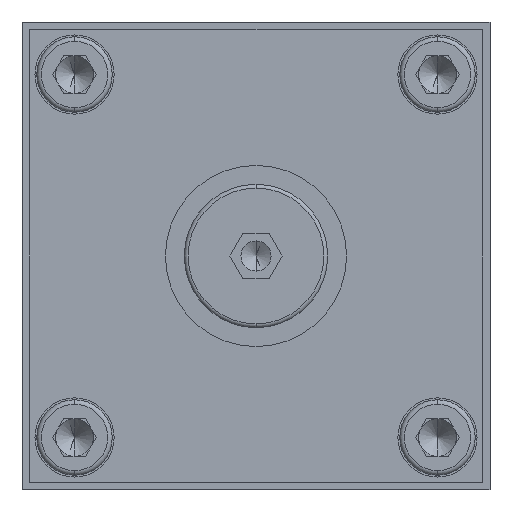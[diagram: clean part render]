
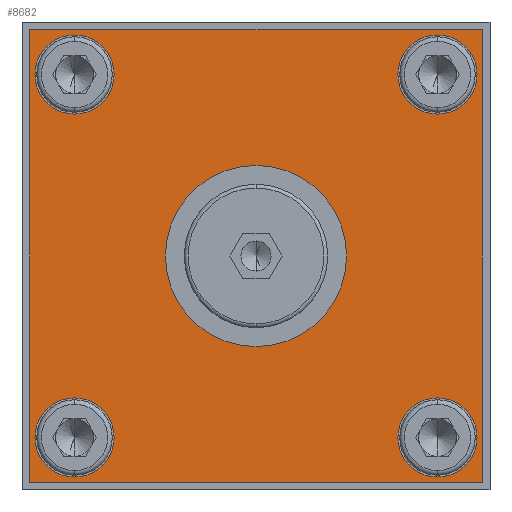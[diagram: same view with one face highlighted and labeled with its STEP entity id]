
A CAD part, left-side view. The second image highlights one B-rep face of the part: STEP entity #8682.
In plain terms, the highlighted planar face has unit normal (-1, 0, 0).
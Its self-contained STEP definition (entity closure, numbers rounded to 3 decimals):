
#21 = EDGE_LOOP ( 'NONE', ( #11604, #5743 ) ) ;
#363 = EDGE_LOOP ( 'NONE', ( #22292, #15758, #13875, #14564 ) ) ;
#414 = CARTESIAN_POINT ( 'NONE',  ( -64.3, -24.04, -18.79 ) ) ;
#457 = AXIS2_PLACEMENT_3D ( 'NONE', #19253, #8886, #20991 ) ;
#461 = DIRECTION ( 'NONE',  ( 0., 0., 1. ) ) ;
#588 = LINE ( 'NONE', #22520, #5245 ) ;
#681 = CARTESIAN_POINT ( 'NONE',  ( -64.3, 30., 30. ) ) ;
#690 = CIRCLE ( 'NONE', #16192, 5.25 ) ;
#1082 = CARTESIAN_POINT ( 'NONE',  ( -64.3, -30., -30. ) ) ;
#1216 = CARTESIAN_POINT ( 'NONE',  ( -64.3, -24.04, -29.29 ) ) ;
#1310 = CARTESIAN_POINT ( 'NONE',  ( -64.3, -24.04, 29.29 ) ) ;
#1331 = AXIS2_PLACEMENT_3D ( 'NONE', #19216, #8853, #20953 ) ;
#1502 = VERTEX_POINT ( 'NONE', #414 ) ;
#1583 = FACE_BOUND ( 'NONE', #21, .T. ) ;
#1585 = VERTEX_POINT ( 'NONE', #18986 ) ;
#1946 = CARTESIAN_POINT ( 'NONE',  ( -64.3, 24.04, 24.04 ) ) ;
#1974 = CIRCLE ( 'NONE', #19823, 12. ) ;
#2020 = VERTEX_POINT ( 'NONE', #1310 ) ;
#2029 = AXIS2_PLACEMENT_3D ( 'NONE', #8393, #20506, #10151 ) ;
#2073 = EDGE_CURVE ( 'NONE', #20411, #14800, #6545, .T. ) ;
#2121 = AXIS2_PLACEMENT_3D ( 'NONE', #1946, #7337, #8644 ) ;
#2244 = CIRCLE ( 'NONE', #2121, 5.25 ) ;
#2783 = CIRCLE ( 'NONE', #20604, 5.25 ) ;
#3221 = DIRECTION ( 'NONE',  ( -1., 0., 0. ) ) ;
#3548 = PLANE ( 'NONE',  #1331 ) ;
#3708 = ORIENTED_EDGE ( 'NONE', *, *, #3899, .F. ) ;
#3784 = CARTESIAN_POINT ( 'NONE',  ( -64.3, -24.04, -24.04 ) ) ;
#3899 = EDGE_CURVE ( 'NONE', #19630, #16609, #15831, .T. ) ;
#3978 = EDGE_CURVE ( 'NONE', #16609, #19630, #2244, .T. ) ;
#4281 = EDGE_CURVE ( 'NONE', #11408, #20855, #20412, .T. ) ;
#4371 = CARTESIAN_POINT ( 'NONE',  ( -64.3, 24.04, -18.79 ) ) ;
#4788 = CARTESIAN_POINT ( 'NONE',  ( -64.3, 0., 0. ) ) ;
#5245 = VECTOR ( 'NONE', #10416, 1000. ) ;
#5382 = CARTESIAN_POINT ( 'NONE',  ( -64.3, 24.04, 29.29 ) ) ;
#5536 = DIRECTION ( 'NONE',  ( 0., 0., 1. ) ) ;
#5572 = AXIS2_PLACEMENT_3D ( 'NONE', #21240, #10893, #461 ) ;
#5743 = ORIENTED_EDGE ( 'NONE', *, *, #11357, .F. ) ;
#5810 = CARTESIAN_POINT ( 'NONE',  ( -64.3, -24.04, -24.04 ) ) ;
#5892 = CARTESIAN_POINT ( 'NONE',  ( -64.3, 0., -12. ) ) ;
#5913 = EDGE_LOOP ( 'NONE', ( #3708, #14756 ) ) ;
#6197 = FACE_BOUND ( 'NONE', #5913, .T. ) ;
#6264 = CARTESIAN_POINT ( 'NONE',  ( -64.3, -30., 30. ) ) ;
#6435 = EDGE_CURVE ( 'NONE', #20441, #20411, #21874, .T. ) ;
#6513 = DIRECTION ( 'NONE',  ( 0., 0., 1. ) ) ;
#6545 = LINE ( 'NONE', #6264, #15787 ) ;
#6747 = FACE_BOUND ( 'NONE', #10967, .T. ) ;
#6769 = VERTEX_POINT ( 'NONE', #15553 ) ;
#6807 = CIRCLE ( 'NONE', #2029, 5.25 ) ;
#6845 = ORIENTED_EDGE ( 'NONE', *, *, #17369, .F. ) ;
#6895 = ORIENTED_EDGE ( 'NONE', *, *, #7816, .F. ) ;
#7203 = AXIS2_PLACEMENT_3D ( 'NONE', #13383, #13698, #15464 ) ;
#7337 = DIRECTION ( 'NONE',  ( -1., 0., 0. ) ) ;
#7386 = VERTEX_POINT ( 'NONE', #5892 ) ;
#7558 = DIRECTION ( 'NONE',  ( 0., 0., 1. ) ) ;
#7816 = EDGE_CURVE ( 'NONE', #7386, #6769, #10675, .T. ) ;
#8393 = CARTESIAN_POINT ( 'NONE',  ( -64.3, -24.04, 24.04 ) ) ;
#8569 = DIRECTION ( 'NONE',  ( -1., 0., 0. ) ) ;
#8644 = DIRECTION ( 'NONE',  ( 0., 0., 1. ) ) ;
#8682 = ADVANCED_FACE ( 'NONE', ( #6747, #20026, #6197, #1583, #19488, #15427 ), #3548, .T. ) ;
#8853 = DIRECTION ( 'NONE',  ( -1., 0., 0. ) ) ;
#8886 = DIRECTION ( 'NONE',  ( -1., 0., 0. ) ) ;
#8944 = AXIS2_PLACEMENT_3D ( 'NONE', #18923, #8569, #20684 ) ;
#9113 = AXIS2_PLACEMENT_3D ( 'NONE', #3784, #15893, #5536 ) ;
#9824 = ORIENTED_EDGE ( 'NONE', *, *, #20730, .F. ) ;
#10151 = DIRECTION ( 'NONE',  ( 0., 0., 1. ) ) ;
#10416 = DIRECTION ( 'NONE',  ( 0., 0., 1. ) ) ;
#10531 = EDGE_CURVE ( 'NONE', #2020, #15795, #2783, .T. ) ;
#10675 = CIRCLE ( 'NONE', #5572, 12. ) ;
#10840 = VECTOR ( 'NONE', #16541, 1000. ) ;
#10893 = DIRECTION ( 'NONE',  ( -1., 0., 0. ) ) ;
#10967 = EDGE_LOOP ( 'NONE', ( #6845, #6895 ) ) ;
#11092 = CARTESIAN_POINT ( 'NONE',  ( -64.3, -30., 30. ) ) ;
#11243 = CARTESIAN_POINT ( 'NONE',  ( -64.3, -30., 30. ) ) ;
#11357 = EDGE_CURVE ( 'NONE', #15795, #2020, #6807, .T. ) ;
#11408 = VERTEX_POINT ( 'NONE', #13665 ) ;
#11604 = ORIENTED_EDGE ( 'NONE', *, *, #10531, .F. ) ;
#11820 = CARTESIAN_POINT ( 'NONE',  ( -64.3, -24.04, 18.79 ) ) ;
#11826 = ORIENTED_EDGE ( 'NONE', *, *, #16591, .F. ) ;
#12650 = VECTOR ( 'NONE', #21550, 1000. ) ;
#12683 = EDGE_CURVE ( 'NONE', #1502, #16835, #17011, .T. ) ;
#13383 = CARTESIAN_POINT ( 'NONE',  ( -64.3, 24.04, 24.04 ) ) ;
#13576 = CARTESIAN_POINT ( 'NONE',  ( -64.3, -24.04, 24.04 ) ) ;
#13665 = CARTESIAN_POINT ( 'NONE',  ( -64.3, 24.04, -29.29 ) ) ;
#13698 = DIRECTION ( 'NONE',  ( -1., 0., 0. ) ) ;
#13875 = ORIENTED_EDGE ( 'NONE', *, *, #21382, .F. ) ;
#14472 = ORIENTED_EDGE ( 'NONE', *, *, #12683, .F. ) ;
#14564 = ORIENTED_EDGE ( 'NONE', *, *, #2073, .F. ) ;
#14756 = ORIENTED_EDGE ( 'NONE', *, *, #3978, .F. ) ;
#14793 = CARTESIAN_POINT ( 'NONE',  ( -64.3, -30., -30. ) ) ;
#14800 = VERTEX_POINT ( 'NONE', #1082 ) ;
#15347 = DIRECTION ( 'NONE',  ( 0., 0., 1. ) ) ;
#15427 = FACE_OUTER_BOUND ( 'NONE', #363, .T. ) ;
#15464 = DIRECTION ( 'NONE',  ( 0., 0., 1. ) ) ;
#15553 = CARTESIAN_POINT ( 'NONE',  ( -64.3, 0., 12. ) ) ;
#15758 = ORIENTED_EDGE ( 'NONE', *, *, #17504, .F. ) ;
#15787 = VECTOR ( 'NONE', #16643, 1000. ) ;
#15795 = VERTEX_POINT ( 'NONE', #11820 ) ;
#15831 = CIRCLE ( 'NONE', #7203, 5.25 ) ;
#15893 = DIRECTION ( 'NONE',  ( -1., 0., 0. ) ) ;
#16192 = AXIS2_PLACEMENT_3D ( 'NONE', #5810, #17898, #7558 ) ;
#16541 = DIRECTION ( 'NONE',  ( 0., 1., 0. ) ) ;
#16591 = EDGE_CURVE ( 'NONE', #16835, #1502, #690, .T. ) ;
#16609 = VERTEX_POINT ( 'NONE', #17978 ) ;
#16630 = EDGE_LOOP ( 'NONE', ( #14472, #11826 ) ) ;
#16643 = DIRECTION ( 'NONE',  ( 0., 0., -1. ) ) ;
#16835 = VERTEX_POINT ( 'NONE', #1216 ) ;
#16900 = DIRECTION ( 'NONE',  ( -1., 0., 0. ) ) ;
#17011 = CIRCLE ( 'NONE', #9113, 5.25 ) ;
#17369 = EDGE_CURVE ( 'NONE', #6769, #7386, #1974, .T. ) ;
#17504 = EDGE_CURVE ( 'NONE', #1585, #20441, #588, .T. ) ;
#17590 = LINE ( 'NONE', #14793, #10840 ) ;
#17898 = DIRECTION ( 'NONE',  ( -1., 0., 0. ) ) ;
#17912 = CIRCLE ( 'NONE', #457, 5.25 ) ;
#17978 = CARTESIAN_POINT ( 'NONE',  ( -64.3, 24.04, 18.79 ) ) ;
#18923 = CARTESIAN_POINT ( 'NONE',  ( -64.3, 24.04, -24.04 ) ) ;
#18986 = CARTESIAN_POINT ( 'NONE',  ( -64.3, 30., -30. ) ) ;
#19216 = CARTESIAN_POINT ( 'NONE',  ( -64.3, 30., 30. ) ) ;
#19253 = CARTESIAN_POINT ( 'NONE',  ( -64.3, 24.04, -24.04 ) ) ;
#19488 = FACE_BOUND ( 'NONE', #16630, .T. ) ;
#19506 = EDGE_LOOP ( 'NONE', ( #9824, #22239 ) ) ;
#19630 = VERTEX_POINT ( 'NONE', #5382 ) ;
#19823 = AXIS2_PLACEMENT_3D ( 'NONE', #4788, #16900, #6513 ) ;
#20026 = FACE_BOUND ( 'NONE', #19506, .T. ) ;
#20411 = VERTEX_POINT ( 'NONE', #11092 ) ;
#20412 = CIRCLE ( 'NONE', #8944, 5.25 ) ;
#20441 = VERTEX_POINT ( 'NONE', #681 ) ;
#20506 = DIRECTION ( 'NONE',  ( -1., 0., 0. ) ) ;
#20604 = AXIS2_PLACEMENT_3D ( 'NONE', #13576, #3221, #15347 ) ;
#20684 = DIRECTION ( 'NONE',  ( 0., 0., 1. ) ) ;
#20730 = EDGE_CURVE ( 'NONE', #20855, #11408, #17912, .T. ) ;
#20855 = VERTEX_POINT ( 'NONE', #4371 ) ;
#20953 = DIRECTION ( 'NONE',  ( 0., 0., 1. ) ) ;
#20991 = DIRECTION ( 'NONE',  ( 0., 0., 1. ) ) ;
#21240 = CARTESIAN_POINT ( 'NONE',  ( -64.3, 0., 0. ) ) ;
#21382 = EDGE_CURVE ( 'NONE', #14800, #1585, #17590, .T. ) ;
#21550 = DIRECTION ( 'NONE',  ( 0., -1., 0. ) ) ;
#21874 = LINE ( 'NONE', #11243, #12650 ) ;
#22239 = ORIENTED_EDGE ( 'NONE', *, *, #4281, .F. ) ;
#22292 = ORIENTED_EDGE ( 'NONE', *, *, #6435, .F. ) ;
#22520 = CARTESIAN_POINT ( 'NONE',  ( -64.3, 30., 30. ) ) ;
